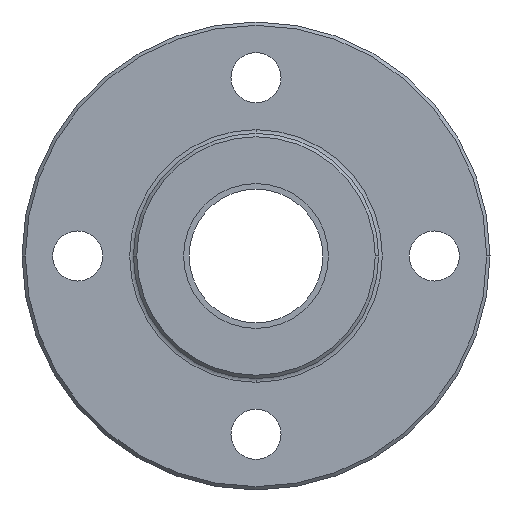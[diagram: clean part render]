
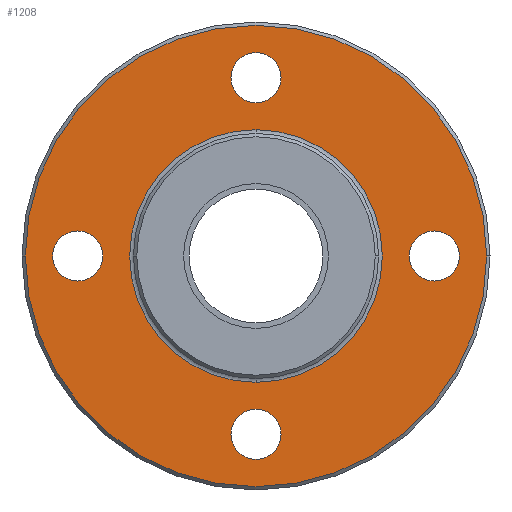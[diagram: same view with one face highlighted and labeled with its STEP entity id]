
A CAD part, left-side view. The second image highlights one B-rep face of the part: STEP entity #1208.
In plain terms, the highlighted planar face has unit normal (-1, 0, 0).
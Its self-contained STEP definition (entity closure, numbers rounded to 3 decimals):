
#2 = DIRECTION ( 'NONE',  ( 1., 0., 0. ) ) ;
#19 = EDGE_CURVE ( 'NONE', #304, #523, #934, .T. ) ;
#27 = CIRCLE ( 'NONE', #1247, 11.338 ) ;
#34 = AXIS2_PLACEMENT_3D ( 'NONE', #60, #750, #889 ) ;
#60 = CARTESIAN_POINT ( 'NONE',  ( 26., 0., 0. ) ) ;
#72 = VERTEX_POINT ( 'NONE', #209 ) ;
#83 = CARTESIAN_POINT ( 'NONE',  ( 26., -20.7, 0. ) ) ;
#95 = CARTESIAN_POINT ( 'NONE',  ( 26., 13.75, 0. ) ) ;
#105 = VERTEX_POINT ( 'NONE', #546 ) ;
#115 = AXIS2_PLACEMENT_3D ( 'NONE', #337, #1143, #680 ) ;
#123 = DIRECTION ( 'NONE',  ( -1., 0., 0. ) ) ;
#126 = DIRECTION ( 'NONE',  ( 0., 0., -1. ) ) ;
#132 = ORIENTED_EDGE ( 'NONE', *, *, #741, .T. ) ;
#162 = DIRECTION ( 'NONE',  ( 1., 0., 0. ) ) ;
#174 = DIRECTION ( 'NONE',  ( 0., 1., 0. ) ) ;
#175 = EDGE_LOOP ( 'NONE', ( #1496, #132 ) ) ;
#181 = CARTESIAN_POINT ( 'NONE',  ( 26., 0., 16. ) ) ;
#190 = CIRCLE ( 'NONE', #955, 11.338 ) ;
#194 = DIRECTION ( 'NONE',  ( -1., 0., 0. ) ) ;
#209 = CARTESIAN_POINT ( 'NONE',  ( 26., -18.25, 0. ) ) ;
#212 = VERTEX_POINT ( 'NONE', #1172 ) ;
#220 = CARTESIAN_POINT ( 'NONE',  ( 26., 0., 0. ) ) ;
#238 = EDGE_CURVE ( 'NONE', #1240, #838, #1501, .T. ) ;
#254 = ORIENTED_EDGE ( 'NONE', *, *, #828, .T. ) ;
#269 = CARTESIAN_POINT ( 'NONE',  ( 26., 0., 18.25 ) ) ;
#272 = ORIENTED_EDGE ( 'NONE', *, *, #1379, .T. ) ;
#288 = CARTESIAN_POINT ( 'NONE',  ( 26., 0., -16. ) ) ;
#302 = CARTESIAN_POINT ( 'NONE',  ( 26., 0., -13.75 ) ) ;
#304 = VERTEX_POINT ( 'NONE', #95 ) ;
#317 = CIRCLE ( 'NONE', #115, 2.25 ) ;
#323 = EDGE_CURVE ( 'NONE', #1360, #681, #27, .T. ) ;
#337 = CARTESIAN_POINT ( 'NONE',  ( 26., -16., 0. ) ) ;
#348 = CARTESIAN_POINT ( 'NONE',  ( 26., 0., 16. ) ) ;
#351 = DIRECTION ( 'NONE',  ( 0., 0., 1. ) ) ;
#354 = DIRECTION ( 'NONE',  ( 0., 1., 0. ) ) ;
#358 = DIRECTION ( 'NONE',  ( -1., 0., 0. ) ) ;
#427 = FACE_BOUND ( 'NONE', #479, .T. ) ;
#440 = AXIS2_PLACEMENT_3D ( 'NONE', #697, #2, #948 ) ;
#459 = FACE_BOUND ( 'NONE', #1261, .T. ) ;
#479 = EDGE_LOOP ( 'NONE', ( #667, #1295 ) ) ;
#523 = VERTEX_POINT ( 'NONE', #1146 ) ;
#540 = DIRECTION ( 'NONE',  ( 1., 0., 0. ) ) ;
#546 = CARTESIAN_POINT ( 'NONE',  ( 26., -13.75, 0. ) ) ;
#597 = EDGE_CURVE ( 'NONE', #838, #1240, #1276, .T. ) ;
#611 = AXIS2_PLACEMENT_3D ( 'NONE', #348, #1062, #713 ) ;
#630 = ORIENTED_EDGE ( 'NONE', *, *, #323, .F. ) ;
#636 = DIRECTION ( 'NONE',  ( 0., 1., 0. ) ) ;
#648 = DIRECTION ( 'NONE',  ( 0., 0., -1. ) ) ;
#652 = DIRECTION ( 'NONE',  ( 1., 0., 0. ) ) ;
#667 = ORIENTED_EDGE ( 'NONE', *, *, #839, .T. ) ;
#680 = DIRECTION ( 'NONE',  ( 0., 1., 0. ) ) ;
#681 = VERTEX_POINT ( 'NONE', #1409 ) ;
#697 = CARTESIAN_POINT ( 'NONE',  ( 26., -16., 0. ) ) ;
#711 = CIRCLE ( 'NONE', #1248, 2.25 ) ;
#713 = DIRECTION ( 'NONE',  ( 0., 0., -1. ) ) ;
#739 = CARTESIAN_POINT ( 'NONE',  ( 26., 0., 11.338 ) ) ;
#741 = EDGE_CURVE ( 'NONE', #72, #105, #317, .T. ) ;
#750 = DIRECTION ( 'NONE',  ( -1., 0., 0. ) ) ;
#800 = EDGE_CURVE ( 'NONE', #681, #1360, #190, .T. ) ;
#811 = AXIS2_PLACEMENT_3D ( 'NONE', #1139, #1272, #351 ) ;
#813 = ORIENTED_EDGE ( 'NONE', *, *, #19, .T. ) ;
#828 = EDGE_CURVE ( 'NONE', #523, #304, #711, .T. ) ;
#838 = VERTEX_POINT ( 'NONE', #302 ) ;
#839 = EDGE_CURVE ( 'NONE', #1161, #1315, #1323, .T. ) ;
#863 = EDGE_LOOP ( 'NONE', ( #272, #1302 ) ) ;
#866 = EDGE_CURVE ( 'NONE', #1167, #212, #1027, .T. ) ;
#883 = CARTESIAN_POINT ( 'NONE',  ( 26., 16., 0. ) ) ;
#886 = DIRECTION ( 'NONE',  ( 1., 0., 0. ) ) ;
#889 = DIRECTION ( 'NONE',  ( 0., 1., 0. ) ) ;
#903 = AXIS2_PLACEMENT_3D ( 'NONE', #181, #652, #1125 ) ;
#917 = CARTESIAN_POINT ( 'NONE',  ( 26., 0., 0. ) ) ;
#931 = FACE_OUTER_BOUND ( 'NONE', #863, .T. ) ;
#932 = DIRECTION ( 'NONE',  ( 1., 0., 0. ) ) ;
#934 = CIRCLE ( 'NONE', #1054, 2.25 ) ;
#942 = EDGE_CURVE ( 'NONE', #1315, #1161, #956, .T. ) ;
#948 = DIRECTION ( 'NONE',  ( 0., 1., 0. ) ) ;
#955 = AXIS2_PLACEMENT_3D ( 'NONE', #917, #194, #174 ) ;
#956 = CIRCLE ( 'NONE', #611, 2.25 ) ;
#976 = EDGE_CURVE ( 'NONE', #105, #72, #1406, .T. ) ;
#993 = EDGE_LOOP ( 'NONE', ( #254, #813 ) ) ;
#1010 = DIRECTION ( 'NONE',  ( 0., 1., 0. ) ) ;
#1012 = ORIENTED_EDGE ( 'NONE', *, *, #800, .F. ) ;
#1027 = CIRCLE ( 'NONE', #1081, 20.7 ) ;
#1047 = FACE_BOUND ( 'NONE', #993, .T. ) ;
#1054 = AXIS2_PLACEMENT_3D ( 'NONE', #1219, #162, #636 ) ;
#1062 = DIRECTION ( 'NONE',  ( 1., 0., 0. ) ) ;
#1064 = EDGE_LOOP ( 'NONE', ( #630, #1012 ) ) ;
#1081 = AXIS2_PLACEMENT_3D ( 'NONE', #220, #123, #354 ) ;
#1099 = AXIS2_PLACEMENT_3D ( 'NONE', #1524, #932, #126 ) ;
#1125 = DIRECTION ( 'NONE',  ( 0., 0., -1. ) ) ;
#1139 = CARTESIAN_POINT ( 'NONE',  ( 26., 16.019, 0. ) ) ;
#1143 = DIRECTION ( 'NONE',  ( 1., 0., 0. ) ) ;
#1146 = CARTESIAN_POINT ( 'NONE',  ( 26., 18.25, 0. ) ) ;
#1161 = VERTEX_POINT ( 'NONE', #1396 ) ;
#1167 = VERTEX_POINT ( 'NONE', #83 ) ;
#1172 = CARTESIAN_POINT ( 'NONE',  ( 26., 20.7, 0. ) ) ;
#1208 = ADVANCED_FACE ( 'NONE', ( #1499, #1047, #1523, #427, #459, #931 ), #1257, .T. ) ;
#1219 = CARTESIAN_POINT ( 'NONE',  ( 26., 16., 0. ) ) ;
#1240 = VERTEX_POINT ( 'NONE', #1265 ) ;
#1247 = AXIS2_PLACEMENT_3D ( 'NONE', #1539, #358, #1425 ) ;
#1248 = AXIS2_PLACEMENT_3D ( 'NONE', #883, #540, #1010 ) ;
#1257 = PLANE ( 'NONE',  #811 ) ;
#1261 = EDGE_LOOP ( 'NONE', ( #1393, #1468 ) ) ;
#1265 = CARTESIAN_POINT ( 'NONE',  ( 26., 0., -18.25 ) ) ;
#1272 = DIRECTION ( 'NONE',  ( -1., 0., 0. ) ) ;
#1276 = CIRCLE ( 'NONE', #1305, 2.25 ) ;
#1295 = ORIENTED_EDGE ( 'NONE', *, *, #942, .T. ) ;
#1302 = ORIENTED_EDGE ( 'NONE', *, *, #866, .T. ) ;
#1305 = AXIS2_PLACEMENT_3D ( 'NONE', #288, #886, #648 ) ;
#1315 = VERTEX_POINT ( 'NONE', #269 ) ;
#1323 = CIRCLE ( 'NONE', #903, 2.25 ) ;
#1360 = VERTEX_POINT ( 'NONE', #739 ) ;
#1379 = EDGE_CURVE ( 'NONE', #212, #1167, #1380, .T. ) ;
#1380 = CIRCLE ( 'NONE', #34, 20.7 ) ;
#1393 = ORIENTED_EDGE ( 'NONE', *, *, #238, .T. ) ;
#1396 = CARTESIAN_POINT ( 'NONE',  ( 26., 0., 13.75 ) ) ;
#1406 = CIRCLE ( 'NONE', #440, 2.25 ) ;
#1409 = CARTESIAN_POINT ( 'NONE',  ( 26., 0., -11.338 ) ) ;
#1425 = DIRECTION ( 'NONE',  ( 0., 1., 0. ) ) ;
#1468 = ORIENTED_EDGE ( 'NONE', *, *, #597, .T. ) ;
#1496 = ORIENTED_EDGE ( 'NONE', *, *, #976, .T. ) ;
#1499 = FACE_BOUND ( 'NONE', #1064, .T. ) ;
#1501 = CIRCLE ( 'NONE', #1099, 2.25 ) ;
#1523 = FACE_BOUND ( 'NONE', #175, .T. ) ;
#1524 = CARTESIAN_POINT ( 'NONE',  ( 26., 0., -16. ) ) ;
#1539 = CARTESIAN_POINT ( 'NONE',  ( 26., 0., 0. ) ) ;
